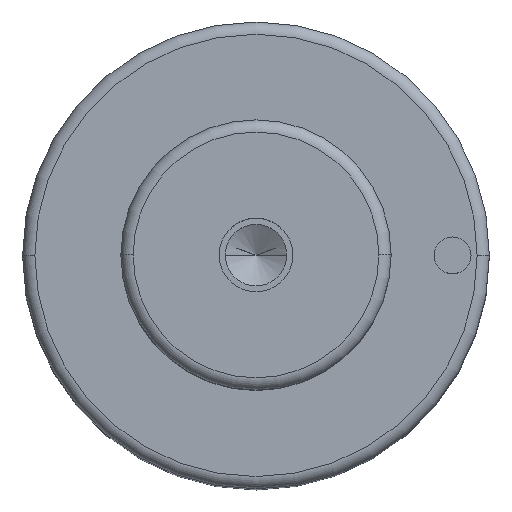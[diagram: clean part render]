
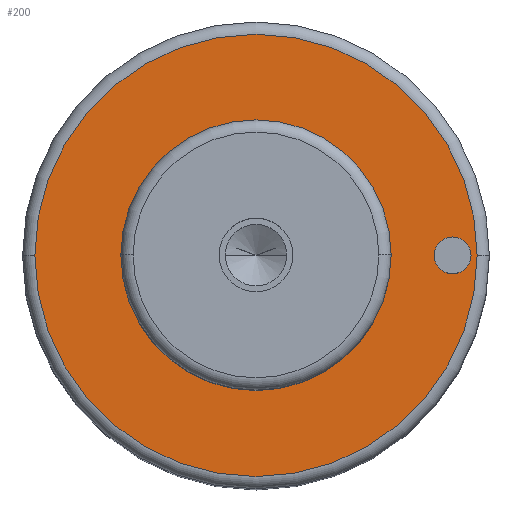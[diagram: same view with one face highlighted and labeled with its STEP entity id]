
A CAD part, top view. The second image highlights one B-rep face of the part: STEP entity #200.
In plain terms, the highlighted planar face has unit normal (0, 0, 1).
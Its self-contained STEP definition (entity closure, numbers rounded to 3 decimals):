
#99=PLANE('',#596);
#107=FACE_BOUND('',#265,.T.);
#108=FACE_BOUND('',#266,.T.);
#109=FACE_BOUND('',#267,.T.);
#200=ADVANCED_FACE('',(#107,#108,#109),#99,.T.);
#265=EDGE_LOOP('',(#359,#360));
#266=EDGE_LOOP('',(#361,#362));
#267=EDGE_LOOP('',(#363,#364));
#359=ORIENTED_EDGE('',*,*,#460,.F.);
#360=ORIENTED_EDGE('',*,*,#461,.F.);
#361=ORIENTED_EDGE('',*,*,#485,.F.);
#362=ORIENTED_EDGE('',*,*,#486,.F.);
#363=ORIENTED_EDGE('',*,*,#456,.T.);
#364=ORIENTED_EDGE('',*,*,#454,.T.);
#411=VERTEX_POINT('',#808);
#412=VERTEX_POINT('',#810);
#413=VERTEX_POINT('',#816);
#416=VERTEX_POINT('',#821);
#430=VERTEX_POINT('',#875);
#431=VERTEX_POINT('',#876);
#454=EDGE_CURVE('',#412,#411,#513,.T.);
#456=EDGE_CURVE('',#411,#412,#514,.T.);
#460=EDGE_CURVE('',#416,#413,#518,.T.);
#461=EDGE_CURVE('',#413,#416,#519,.T.);
#485=EDGE_CURVE('',#430,#431,#533,.T.);
#486=EDGE_CURVE('',#431,#430,#534,.T.);
#513=CIRCLE('',#558,11.);
#514=CIRCLE('',#560,11.);
#518=CIRCLE('',#565,18.);
#519=CIRCLE('',#567,18.);
#533=CIRCLE('',#594,1.5);
#534=CIRCLE('',#595,1.5);
#558=AXIS2_PLACEMENT_3D('',#809,#647,#648);
#560=AXIS2_PLACEMENT_3D('',#813,#652,#653);
#565=AXIS2_PLACEMENT_3D('',#822,#662,#663);
#567=AXIS2_PLACEMENT_3D('',#824,#666,#667);
#594=AXIS2_PLACEMENT_3D('',#874,#730,#731);
#595=AXIS2_PLACEMENT_3D('',#877,#732,#733);
#596=AXIS2_PLACEMENT_3D('',#878,#734,#735);
#647=DIRECTION('',(0.,0.,-1.));
#648=DIRECTION('',(0.,1.,0.));
#652=DIRECTION('',(0.,0.,-1.));
#653=DIRECTION('',(0.,-1.,0.));
#662=DIRECTION('',(0.,0.,-1.));
#663=DIRECTION('',(0.,1.,0.));
#666=DIRECTION('',(0.,0.,-1.));
#667=DIRECTION('',(0.,-1.,0.));
#730=DIRECTION('',(0.,0.,1.));
#731=DIRECTION('',(0.,1.,0.));
#732=DIRECTION('',(0.,0.,1.));
#733=DIRECTION('',(0.,-1.,0.));
#734=DIRECTION('',(0.,0.,1.));
#735=DIRECTION('',(0.,-1.,0.));
#808=CARTESIAN_POINT('',(-11.,0.,54.));
#809=CARTESIAN_POINT('',(0.,0.,54.));
#810=CARTESIAN_POINT('',(11.,0.,54.));
#813=CARTESIAN_POINT('',(0.,0.,54.));
#816=CARTESIAN_POINT('',(-18.,0.,54.));
#821=CARTESIAN_POINT('',(18.,0.,54.));
#822=CARTESIAN_POINT('',(0.,0.,54.));
#824=CARTESIAN_POINT('',(0.,0.,54.));
#874=CARTESIAN_POINT('',(16.,0.,54.));
#875=CARTESIAN_POINT('',(14.5,0.,54.));
#876=CARTESIAN_POINT('',(17.5,0.,54.));
#877=CARTESIAN_POINT('',(16.,0.,54.));
#878=CARTESIAN_POINT('',(0.,0.,54.));
